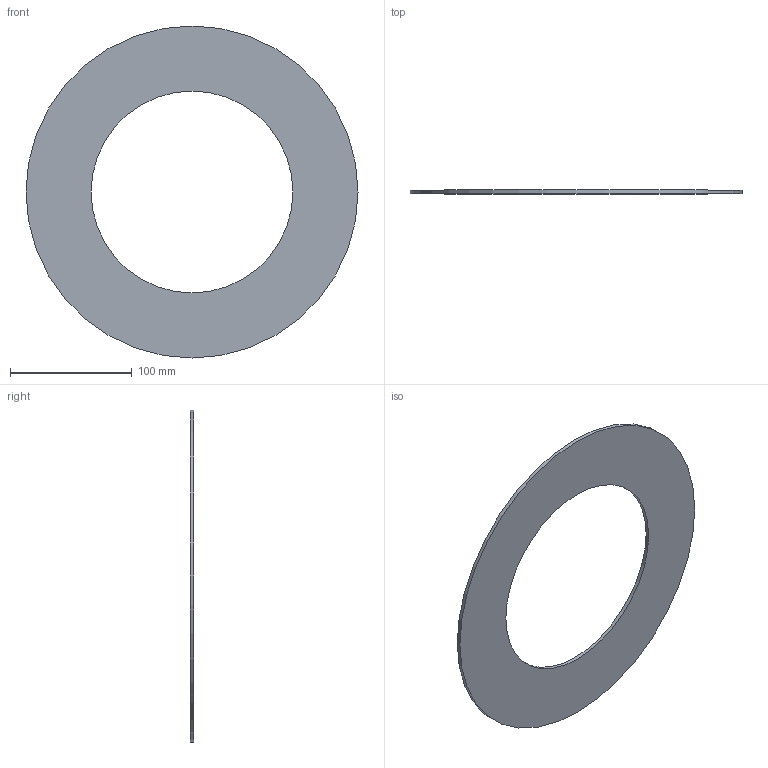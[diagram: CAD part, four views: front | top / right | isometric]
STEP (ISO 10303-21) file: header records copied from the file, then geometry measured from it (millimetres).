
FILE_DESCRIPTION(/* description */ ('Unknown'),/* implementation_level */ '2;1');
FILE_NAME(/* name */ 'GUA.200C',/* time_stamp */ '2021-04-01T12:28:32+02:00',/* author */ ('Unknown'),/* organization */ ('Unknown'),/* preprocessor_version */ 'ST-DEVELOPER v16.7',/* originating_system */ 'Solid Edge',/* authorisation */ 'Unknown');
FILE_SCHEMA (('AUTOMOTIVE_DESIGN {1 0 10303 214 3 1 1}'));
Length unit declared in the file: millimetre
Products named in the file (1): GUA.200C
Bounding box: 273 x 3 x 273 mm (x, y, z)
Volume: 110677.5 mm3; surface area: 77922.5 mm2
Topology: 1 solids, 1 shells, 4 faces, 6 edges, 4 vertices
Faces by surface type: cylinder 2, plane 2
Full cylindrical faces by diameter (mm): 166 x1, 273 x1
Entity records: 118 total; most frequent: DIRECTION 18, CARTESIAN_POINT 13, AXIS2_PLACEMENT_3D 9, ORIENTED_EDGE 8, EDGE_LOOP 8, FACE_BOUND 8, EDGE_CURVE 4, VERTEX_POINT 4
